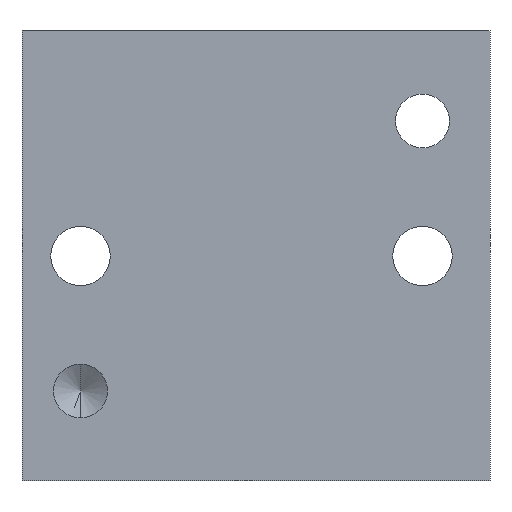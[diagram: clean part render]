
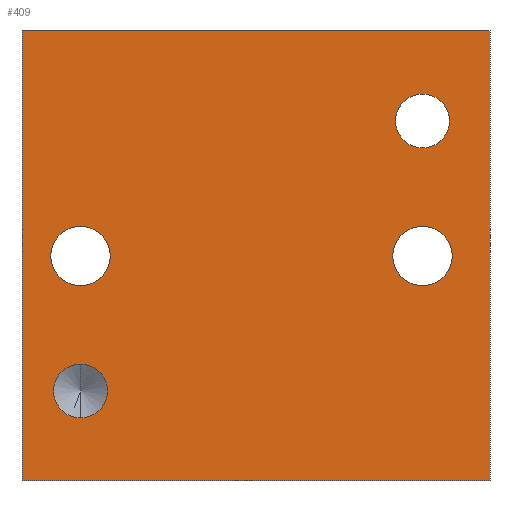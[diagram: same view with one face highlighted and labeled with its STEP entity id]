
A CAD part, front view. The second image highlights one B-rep face of the part: STEP entity #409.
In plain terms, the highlighted planar face has unit normal (0, -1, 0).
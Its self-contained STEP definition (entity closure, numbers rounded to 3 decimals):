
#1 = VERTEX_POINT ( 'NONE', #779 ) ;
#7 = VERTEX_POINT ( 'NONE', #781 ) ;
#12 = VERTEX_POINT ( 'NONE', #786 ) ;
#13 = VERTEX_POINT ( 'NONE', #780 ) ;
#18 = EDGE_CURVE ( 'NONE', #324, #1, #1019, .T. ) ;
#23 = EDGE_CURVE ( 'NONE', #796, #802, #1032, .T. ) ;
#31 = EDGE_CURVE ( 'NONE', #332, #803, #1043, .T. ) ;
#60 = EDGE_CURVE ( 'NONE', #7, #13, #158, .T. ) ;
#63 = EDGE_CURVE ( 'NONE', #1, #324, #163, .T. ) ;
#64 = EDGE_CURVE ( 'NONE', #334, #12, #165, .T. ) ;
#65 = EDGE_CURVE ( 'NONE', #802, #796, #166, .T. ) ;
#66 = EDGE_CURVE ( 'NONE', #803, #332, #167, .T. ) ;
#67 = EDGE_CURVE ( 'NONE', #13, #801, #168, .T. ) ;
#68 = EDGE_CURVE ( 'NONE', #318, #801, #169, .T. ) ;
#117 = CARTESIAN_POINT ( 'NONE',  ( 18.5, -24., 21.7 ) ) ;
#121 = CARTESIAN_POINT ( 'NONE',  ( 26., -24., 0. ) ) ;
#122 = CARTESIAN_POINT ( 'NONE',  ( 18.5, -24., 28.3 ) ) ;
#123 = CARTESIAN_POINT ( 'NONE',  ( -19.5, -24., 28.3 ) ) ;
#158 = LINE ( 'NONE', #490, #159 ) ;
#159 = VECTOR ( 'NONE', #495, 1000. ) ;
#163 = CIRCLE ( 'NONE', #388, 3. ) ;
#165 = CIRCLE ( 'NONE', #389, 3. ) ;
#166 = CIRCLE ( 'NONE', #390, 3.3 ) ;
#167 = CIRCLE ( 'NONE', #391, 3.3 ) ;
#168 = LINE ( 'NONE', #504, #170 ) ;
#169 = LINE ( 'NONE', #514, #172 ) ;
#170 = VECTOR ( 'NONE', #505, 1000. ) ;
#172 = VECTOR ( 'NONE', #516, 1000. ) ;
#177 = VECTOR ( 'NONE', #538, 1000. ) ;
#179 = LINE ( 'NONE', #537, #177 ) ;
#208 = CIRCLE ( 'NONE', #669, 3. ) ;
#212 = FACE_BOUND ( 'NONE', #1004, .T. ) ;
#216 = FACE_BOUND ( 'NONE', #1003, .T. ) ;
#219 = FACE_BOUND ( 'NONE', #812, .T. ) ;
#222 = FACE_BOUND ( 'NONE', #1017, .T. ) ;
#223 = FACE_OUTER_BOUND ( 'NONE', #1014, .T. ) ;
#318 = VERTEX_POINT ( 'NONE', #517 ) ;
#324 = VERTEX_POINT ( 'NONE', #523 ) ;
#332 = VERTEX_POINT ( 'NONE', #529 ) ;
#334 = VERTEX_POINT ( 'NONE', #531 ) ;
#340 = EDGE_CURVE ( 'NONE', #7, #318, #179, .T. ) ;
#364 = EDGE_CURVE ( 'NONE', #12, #334, #208, .T. ) ;
#366 = AXIS2_PLACEMENT_3D ( 'NONE', #763, #762, #759 ) ;
#368 = AXIS2_PLACEMENT_3D ( 'NONE', #753, #751, #750 ) ;
#372 = AXIS2_PLACEMENT_3D ( 'NONE', #740, #738, #737 ) ;
#388 = AXIS2_PLACEMENT_3D ( 'NONE', #498, #499, #500 ) ;
#389 = AXIS2_PLACEMENT_3D ( 'NONE', #501, #502, #503 ) ;
#390 = AXIS2_PLACEMENT_3D ( 'NONE', #506, #507, #508 ) ;
#391 = AXIS2_PLACEMENT_3D ( 'NONE', #511, #512, #513 ) ;
#409 = ADVANCED_FACE ( 'NONE', ( #216, #219, #222, #212, #223 ), #619, .F. ) ;
#490 = CARTESIAN_POINT ( 'NONE',  ( -26., -24., 50. ) ) ;
#495 = DIRECTION ( 'NONE',  ( 0., 0., -1. ) ) ;
#498 = CARTESIAN_POINT ( 'NONE',  ( -19.5, -24., 10. ) ) ;
#499 = DIRECTION ( 'NONE',  ( 0., -1., 0. ) ) ;
#500 = DIRECTION ( 'NONE',  ( 0., 0., -1. ) ) ;
#501 = CARTESIAN_POINT ( 'NONE',  ( 18.5, -24., 40. ) ) ;
#502 = DIRECTION ( 'NONE',  ( 0., -1., 0. ) ) ;
#503 = DIRECTION ( 'NONE',  ( 0., 0., -1. ) ) ;
#504 = CARTESIAN_POINT ( 'NONE',  ( -26., -24., 0. ) ) ;
#505 = DIRECTION ( 'NONE',  ( 1., 0., 0. ) ) ;
#506 = CARTESIAN_POINT ( 'NONE',  ( 18.5, -24., 25. ) ) ;
#507 = DIRECTION ( 'NONE',  ( 0., 1., 0. ) ) ;
#508 = DIRECTION ( 'NONE',  ( 0., 0., 1. ) ) ;
#511 = CARTESIAN_POINT ( 'NONE',  ( -19.5, -24., 25. ) ) ;
#512 = DIRECTION ( 'NONE',  ( 0., 1., 0. ) ) ;
#513 = DIRECTION ( 'NONE',  ( 0., 0., 1. ) ) ;
#514 = CARTESIAN_POINT ( 'NONE',  ( 26., -24., 50. ) ) ;
#516 = DIRECTION ( 'NONE',  ( 0., 0., -1. ) ) ;
#517 = CARTESIAN_POINT ( 'NONE',  ( 26., -24., 50. ) ) ;
#523 = CARTESIAN_POINT ( 'NONE',  ( -19.5, -24., 13. ) ) ;
#529 = CARTESIAN_POINT ( 'NONE',  ( -19.5, -24., 21.7 ) ) ;
#531 = CARTESIAN_POINT ( 'NONE',  ( 18.5, -24., 37. ) ) ;
#537 = CARTESIAN_POINT ( 'NONE',  ( -26., -24., 50. ) ) ;
#538 = DIRECTION ( 'NONE',  ( 1., 0., 0. ) ) ;
#600 = CARTESIAN_POINT ( 'NONE',  ( 18.5, -24., 40. ) ) ;
#601 = DIRECTION ( 'NONE',  ( 0., -1., 0. ) ) ;
#602 = DIRECTION ( 'NONE',  ( 0., 0., -1. ) ) ;
#617 = DIRECTION ( 'NONE',  ( 0., 1., 0. ) ) ;
#619 = PLANE ( 'NONE',  #676 ) ;
#621 = CARTESIAN_POINT ( 'NONE',  ( -26., -24., 50. ) ) ;
#623 = DIRECTION ( 'NONE',  ( 0., 0., 1. ) ) ;
#669 = AXIS2_PLACEMENT_3D ( 'NONE', #600, #601, #602 ) ;
#676 = AXIS2_PLACEMENT_3D ( 'NONE', #621, #617, #623 ) ;
#737 = DIRECTION ( 'NONE',  ( 0., 0., 1. ) ) ;
#738 = DIRECTION ( 'NONE',  ( 0., 1., 0. ) ) ;
#740 = CARTESIAN_POINT ( 'NONE',  ( -19.5, -24., 25. ) ) ;
#750 = DIRECTION ( 'NONE',  ( 0., 0., 1. ) ) ;
#751 = DIRECTION ( 'NONE',  ( 0., 1., 0. ) ) ;
#753 = CARTESIAN_POINT ( 'NONE',  ( 18.5, -24., 25. ) ) ;
#759 = DIRECTION ( 'NONE',  ( 0., 0., -1. ) ) ;
#762 = DIRECTION ( 'NONE',  ( 0., -1., 0. ) ) ;
#763 = CARTESIAN_POINT ( 'NONE',  ( -19.5, -24., 10. ) ) ;
#779 = CARTESIAN_POINT ( 'NONE',  ( -19.5, -24., 7. ) ) ;
#780 = CARTESIAN_POINT ( 'NONE',  ( -26., -24., 0. ) ) ;
#781 = CARTESIAN_POINT ( 'NONE',  ( -26., -24., 50. ) ) ;
#786 = CARTESIAN_POINT ( 'NONE',  ( 18.5, -24., 43. ) ) ;
#796 = VERTEX_POINT ( 'NONE', #117 ) ;
#801 = VERTEX_POINT ( 'NONE', #121 ) ;
#802 = VERTEX_POINT ( 'NONE', #122 ) ;
#803 = VERTEX_POINT ( 'NONE', #123 ) ;
#812 = EDGE_LOOP ( 'NONE', ( #910, #855 ) ) ;
#840 = ORIENTED_EDGE ( 'NONE', *, *, #23, .T. ) ;
#844 = ORIENTED_EDGE ( 'NONE', *, *, #65, .T. ) ;
#845 = ORIENTED_EDGE ( 'NONE', *, *, #60, .T. ) ;
#847 = ORIENTED_EDGE ( 'NONE', *, *, #66, .T. ) ;
#849 = ORIENTED_EDGE ( 'NONE', *, *, #67, .T. ) ;
#850 = ORIENTED_EDGE ( 'NONE', *, *, #340, .F. ) ;
#851 = ORIENTED_EDGE ( 'NONE', *, *, #68, .F. ) ;
#853 = ORIENTED_EDGE ( 'NONE', *, *, #31, .T. ) ;
#855 = ORIENTED_EDGE ( 'NONE', *, *, #364, .F. ) ;
#903 = ORIENTED_EDGE ( 'NONE', *, *, #63, .F. ) ;
#909 = ORIENTED_EDGE ( 'NONE', *, *, #18, .F. ) ;
#910 = ORIENTED_EDGE ( 'NONE', *, *, #64, .F. ) ;
#1003 = EDGE_LOOP ( 'NONE', ( #903, #909 ) ) ;
#1004 = EDGE_LOOP ( 'NONE', ( #847, #853 ) ) ;
#1014 = EDGE_LOOP ( 'NONE', ( #849, #851, #850, #845 ) ) ;
#1017 = EDGE_LOOP ( 'NONE', ( #844, #840 ) ) ;
#1019 = CIRCLE ( 'NONE', #366, 3. ) ;
#1032 = CIRCLE ( 'NONE', #368, 3.3 ) ;
#1043 = CIRCLE ( 'NONE', #372, 3.3 ) ;
